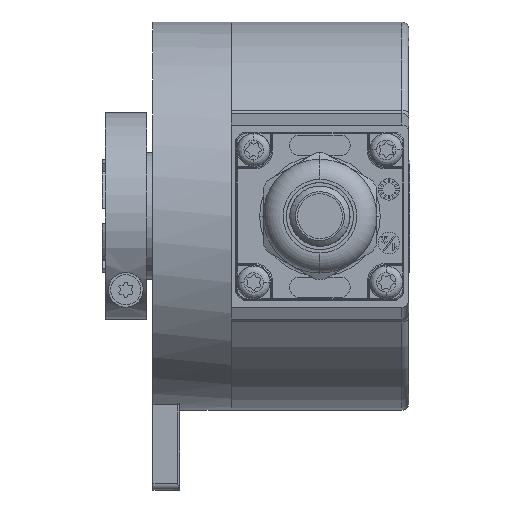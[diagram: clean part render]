
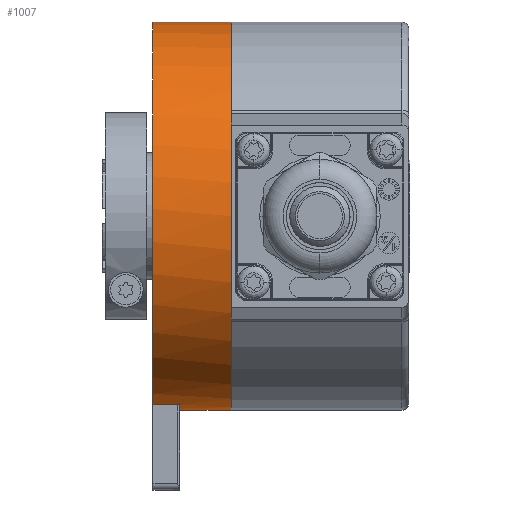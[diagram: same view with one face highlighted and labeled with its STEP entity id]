
A CAD part, front view. The second image highlights one B-rep face of the part: STEP entity #1007.
In plain terms, the highlighted cylindrical face has radius 29 mm (diameter 58 mm), a partial arc.
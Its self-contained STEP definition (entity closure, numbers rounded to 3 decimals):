
#845 = CARTESIAN_POINT ( 'NONE',  ( 8.068, 25.423, 0. ) ) ;
#1007 = ADVANCED_FACE ( 'NONE', ( #7840 ), #2964, .T. ) ;
#1634 = LINE ( 'NONE', #6949, #13929 ) ;
#2964 = CYLINDRICAL_SURFACE ( 'NONE', #8729, 29. ) ;
#3442 = DIRECTION ( 'NONE',  ( 0., 0., 1. ) ) ;
#3877 = VECTOR ( 'NONE', #15200, 1000. ) ;
#3911 = AXIS2_PLACEMENT_3D ( 'NONE', #14601, #6115, #6332 ) ;
#4567 = LINE ( 'NONE', #6481, #18512 ) ;
#4672 = DIRECTION ( 'NONE',  ( 0., 0., -1. ) ) ;
#4737 = AXIS2_PLACEMENT_3D ( 'NONE', #7765, #14557, #19542 ) ;
#5370 = DIRECTION ( 'NONE',  ( -1., 0., 0. ) ) ;
#6057 = CIRCLE ( 'NONE', #3911, 29. ) ;
#6115 = DIRECTION ( 'NONE',  ( 1., 0., 0. ) ) ;
#6332 = DIRECTION ( 'NONE',  ( 0., 0., -1. ) ) ;
#6400 = AXIS2_PLACEMENT_3D ( 'NONE', #15534, #20745, #3442 ) ;
#6481 = CARTESIAN_POINT ( 'NONE',  ( 8.068, 25.423, 29. ) ) ;
#6949 = CARTESIAN_POINT ( 'NONE',  ( 8.068, 18.423, -28.142 ) ) ;
#7057 = ORIENTED_EDGE ( 'NONE', *, *, #16290, .F. ) ;
#7081 = VERTEX_POINT ( 'NONE', #14499 ) ;
#7425 = CARTESIAN_POINT ( 'NONE',  ( 8.068, 25.423, -29. ) ) ;
#7765 = CARTESIAN_POINT ( 'NONE',  ( 8.068, 25.423, 0. ) ) ;
#7836 = CARTESIAN_POINT ( 'NONE',  ( -3.622, 18.423, -28.142 ) ) ;
#7840 = FACE_OUTER_BOUND ( 'NONE', #13702, .T. ) ;
#8052 = DIRECTION ( 'NONE',  ( 1., 0., 0. ) ) ;
#8718 = CIRCLE ( 'NONE', #4737, 29. ) ;
#8729 = AXIS2_PLACEMENT_3D ( 'NONE', #845, #8052, #4672 ) ;
#9313 = ORIENTED_EDGE ( 'NONE', *, *, #20248, .F. ) ;
#9482 = EDGE_CURVE ( 'NONE', #17561, #12663, #14303, .T. ) ;
#11124 = VERTEX_POINT ( 'NONE', #17954 ) ;
#11844 = CIRCLE ( 'NONE', #6400, 29. ) ;
#12663 = VERTEX_POINT ( 'NONE', #14403 ) ;
#13486 = DIRECTION ( 'NONE',  ( 1., 0., 0. ) ) ;
#13702 = EDGE_LOOP ( 'NONE', ( #7057, #20636, #9313, #19032, #19851, #21879 ) ) ;
#13827 = VERTEX_POINT ( 'NONE', #7836 ) ;
#13929 = VECTOR ( 'NONE', #5370, 1000. ) ;
#14303 = LINE ( 'NONE', #7425, #3877 ) ;
#14403 = CARTESIAN_POINT ( 'NONE',  ( 8.068, 25.423, -29. ) ) ;
#14499 = CARTESIAN_POINT ( 'NONE',  ( -3.622, 25.423, 29. ) ) ;
#14557 = DIRECTION ( 'NONE',  ( 1., 0., 0. ) ) ;
#14601 = CARTESIAN_POINT ( 'NONE',  ( -3.622, 25.423, 0. ) ) ;
#14867 = EDGE_CURVE ( 'NONE', #15311, #12663, #8718, .T. ) ;
#15200 = DIRECTION ( 'NONE',  ( 1., 0., 0. ) ) ;
#15311 = VERTEX_POINT ( 'NONE', #16760 ) ;
#15534 = CARTESIAN_POINT ( 'NONE',  ( 0.378, 25.423, 0. ) ) ;
#16290 = EDGE_CURVE ( 'NONE', #7081, #15311, #4567, .T. ) ;
#16760 = CARTESIAN_POINT ( 'NONE',  ( 8.068, 25.423, 29. ) ) ;
#17561 = VERTEX_POINT ( 'NONE', #19035 ) ;
#17954 = CARTESIAN_POINT ( 'NONE',  ( 0.378, 18.423, -28.142 ) ) ;
#18512 = VECTOR ( 'NONE', #13486, 1000. ) ;
#19032 = ORIENTED_EDGE ( 'NONE', *, *, #21761, .T. ) ;
#19035 = CARTESIAN_POINT ( 'NONE',  ( 0.378, 25.423, -29. ) ) ;
#19542 = DIRECTION ( 'NONE',  ( 0., 0., -1. ) ) ;
#19851 = ORIENTED_EDGE ( 'NONE', *, *, #9482, .T. ) ;
#20248 = EDGE_CURVE ( 'NONE', #11124, #13827, #1634, .T. ) ;
#20636 = ORIENTED_EDGE ( 'NONE', *, *, #21959, .T. ) ;
#20745 = DIRECTION ( 'NONE',  ( 1., 0., 0. ) ) ;
#21761 = EDGE_CURVE ( 'NONE', #11124, #17561, #11844, .T. ) ;
#21879 = ORIENTED_EDGE ( 'NONE', *, *, #14867, .F. ) ;
#21959 = EDGE_CURVE ( 'NONE', #7081, #13827, #6057, .T. ) ;
